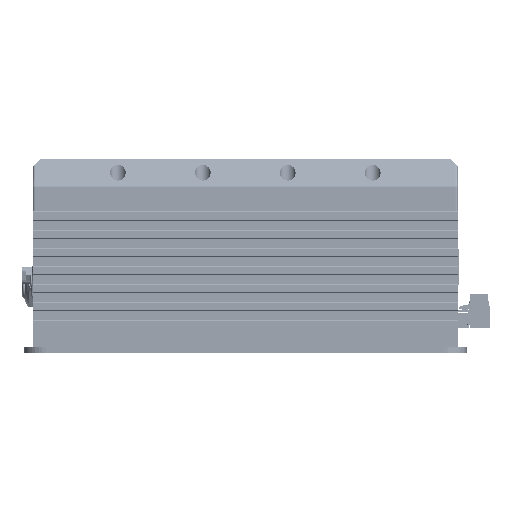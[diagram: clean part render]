
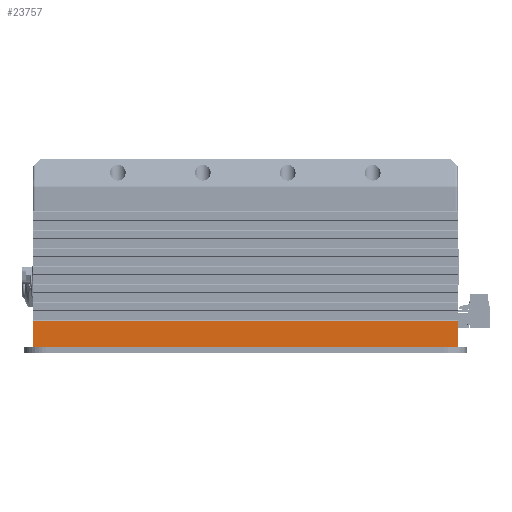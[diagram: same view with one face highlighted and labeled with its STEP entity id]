
A CAD part, left-side view. The second image highlights one B-rep face of the part: STEP entity #23757.
In plain terms, the highlighted planar face has unit normal (-1, 0, 0).
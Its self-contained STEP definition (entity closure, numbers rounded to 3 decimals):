
#23757=ADVANCED_FACE('',(#85520),#85522,.T.);
#85520=FACE_BOUND('',#85521,.T.);
#85521=EDGE_LOOP('',(#146979,#146980,#146981,#146982));
#85522=PLANE('',#85523);
#85523=AXIS2_PLACEMENT_3D('',#85524,#85525,#85526);
#85524=CARTESIAN_POINT('',(-118.5,0.,27.5));
#85525=DIRECTION('',(-1.,0.,0.));
#85526=DIRECTION('',(0.,-1.,0.));
#146979=ORIENTED_EDGE('',*,*,#186037,.T.);
#146980=ORIENTED_EDGE('',*,*,#186257,.T.);
#146981=ORIENTED_EDGE('',*,*,#188361,.T.);
#146982=ORIENTED_EDGE('',*,*,#188122,.T.);
#186037=EDGE_CURVE('',#213014,#213031,#213033,.T.);
#186257=EDGE_CURVE('',#213031,#213462,#213464,.T.);
#188122=EDGE_CURVE('',#216529,#213014,#216530,.T.);
#188361=EDGE_CURVE('',#213462,#216529,#216956,.F.);
#213014=VERTEX_POINT('',#263302);
#213031=VERTEX_POINT('',#263339);
#213033=LINE('',#263343,#263344);
#213462=VERTEX_POINT('',#264214);
#213464=LINE('',#264218,#264219);
#216529=VERTEX_POINT('',#271613);
#216530=LINE('',#271614,#271615);
#216956=LINE('',#272520,#272521);
#263302=CARTESIAN_POINT('',(-118.5,95.,2.5));
#263339=CARTESIAN_POINT('',(-118.5,-95.,2.5));
#263343=CARTESIAN_POINT('',(-118.5,95.,2.5));
#263344=VECTOR('',#263345,1.);
#263345=DIRECTION('',(0.,-1.,0.));
#264214=CARTESIAN_POINT('',(-118.5,-95.,14.102));
#264218=CARTESIAN_POINT('',(-118.5,-95.,2.5));
#264219=VECTOR('',#264220,1.);
#264220=DIRECTION('',(0.,0.,1.));
#271613=CARTESIAN_POINT('',(-118.5,95.,14.102));
#271614=CARTESIAN_POINT('',(-118.5,95.,14.102));
#271615=VECTOR('',#271616,1.);
#271616=DIRECTION('',(0.,0.,-1.));
#272520=CARTESIAN_POINT('',(-118.5,95.,14.102));
#272521=VECTOR('',#272522,1.);
#272522=DIRECTION('',(0.,-1.,0.));
